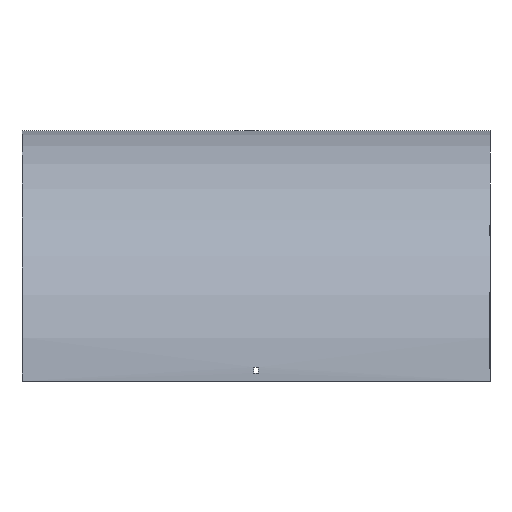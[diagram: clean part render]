
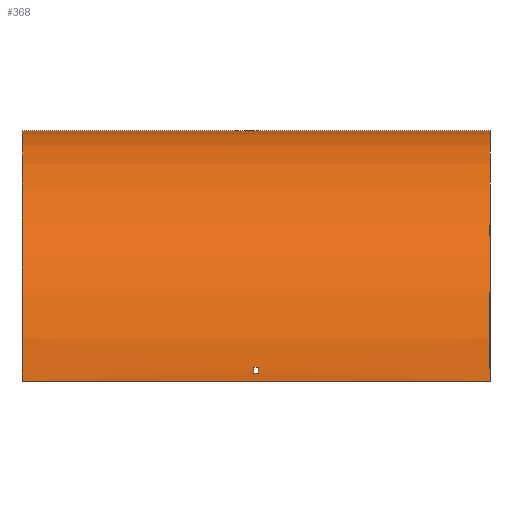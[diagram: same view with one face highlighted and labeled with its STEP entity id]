
A CAD part, top view. The second image highlights one B-rep face of the part: STEP entity #368.
In plain terms, the highlighted cylindrical face has radius 376.5 mm (diameter 753 mm), a partial arc.
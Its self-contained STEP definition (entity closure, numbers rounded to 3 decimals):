
#5 = VERTEX_POINT ( 'NONE', #207 ) ;
#6 = EDGE_CURVE ( 'NONE', #464, #354, #39, .T. ) ;
#7 = CARTESIAN_POINT ( 'NONE',  ( 351.5, -364.5, 376.309 ) ) ;
#10 = CARTESIAN_POINT ( 'NONE',  ( 351.5, 0., 0. ) ) ;
#12 = AXIS2_PLACEMENT_3D ( 'NONE', #395, #593, #356 ) ;
#18 = CARTESIAN_POINT ( 'NONE',  ( 3.25, -0.586, 21. ) ) ;
#24 = ORIENTED_EDGE ( 'NONE', *, *, #81, .F. ) ;
#27 = LINE ( 'NONE', #116, #352 ) ;
#39 = CIRCLE ( 'NONE', #378, 376.5 ) ;
#41 = DIRECTION ( 'NONE',  ( -1., 0., 0. ) ) ;
#42 = VERTEX_POINT ( 'NONE', #473 ) ;
#43 = VECTOR ( 'NONE', #41, 1000. ) ;
#46 = CIRCLE ( 'NONE', #386, 376.5 ) ;
#48 = VERTEX_POINT ( 'NONE', #340 ) ;
#53 = DIRECTION ( 'NONE',  ( -1., 0., 0. ) ) ;
#54 = VERTEX_POINT ( 'NONE', #248 ) ;
#65 = EDGE_CURVE ( 'NONE', #360, #464, #429, .T. ) ;
#70 = EDGE_LOOP ( 'NONE', ( #498, #377, #24, #254 ) ) ;
#72 = DIRECTION ( 'NONE',  ( 0., 0., 1. ) ) ;
#74 = DIRECTION ( 'NONE',  ( 0., 0., -1. ) ) ;
#76 = EDGE_CURVE ( 'NONE', #366, #354, #143, .T. ) ;
#81 = EDGE_CURVE ( 'NONE', #360, #366, #46, .T. ) ;
#83 = EDGE_CURVE ( 'NONE', #587, #232, #27, .T. ) ;
#85 = ORIENTED_EDGE ( 'NONE', *, *, #565, .F. ) ;
#104 = CIRCLE ( 'NONE', #12, 376.5 ) ;
#106 = CARTESIAN_POINT ( 'NONE',  ( -351.5, -376.5, 0. ) ) ;
#110 = EDGE_LOOP ( 'NONE', ( #208, #607, #467, #367 ) ) ;
#112 = DIRECTION ( 'NONE',  ( 0., 0., -1. ) ) ;
#114 = AXIS2_PLACEMENT_3D ( 'NONE', #451, #210, #72 ) ;
#116 = CARTESIAN_POINT ( 'NONE',  ( 351.5, -0.191, 12. ) ) ;
#123 = EDGE_CURVE ( 'NONE', #126, #587, #461, .T. ) ;
#126 = VERTEX_POINT ( 'NONE', #264 ) ;
#140 = CARTESIAN_POINT ( 'NONE',  ( 351.5, 0., 0. ) ) ;
#143 = LINE ( 'NONE', #384, #316 ) ;
#152 = VECTOR ( 'NONE', #419, 1000. ) ;
#155 = DIRECTION ( 'NONE',  ( 1., 0., 0. ) ) ;
#164 = EDGE_CURVE ( 'NONE', #232, #175, #502, .T. ) ;
#165 = DIRECTION ( 'NONE',  ( -1., 0., 0. ) ) ;
#173 = LINE ( 'NONE', #459, #43 ) ;
#175 = VERTEX_POINT ( 'NONE', #18 ) ;
#178 = ORIENTED_EDGE ( 'NONE', *, *, #563, .F. ) ;
#185 = CIRCLE ( 'NONE', #526, 376.5 ) ;
#191 = FACE_BOUND ( 'NONE', #110, .T. ) ;
#196 = DIRECTION ( 'NONE',  ( -1., 0., 0. ) ) ;
#197 = AXIS2_PLACEMENT_3D ( 'NONE', #543, #487, #74 ) ;
#207 = CARTESIAN_POINT ( 'NONE',  ( -3.25, -364.5, 376.309 ) ) ;
#208 = ORIENTED_EDGE ( 'NONE', *, *, #307, .T. ) ;
#210 = DIRECTION ( 'NONE',  ( -1., 0., 0. ) ) ;
#214 = DIRECTION ( 'NONE',  ( 1., 0., 0. ) ) ;
#232 = VERTEX_POINT ( 'NONE', #534 ) ;
#234 = CARTESIAN_POINT ( 'NONE',  ( -351.5, -376.5, 376.5 ) ) ;
#248 = CARTESIAN_POINT ( 'NONE',  ( 3.25, -364.5, 376.309 ) ) ;
#254 = ORIENTED_EDGE ( 'NONE', *, *, #65, .T. ) ;
#263 = CARTESIAN_POINT ( 'NONE',  ( 351.5, -355.5, 375.914 ) ) ;
#264 = CARTESIAN_POINT ( 'NONE',  ( -3.25, -0.586, 21. ) ) ;
#281 = FACE_BOUND ( 'NONE', #511, .T. ) ;
#307 = EDGE_CURVE ( 'NONE', #175, #126, #173, .T. ) ;
#313 = CARTESIAN_POINT ( 'NONE',  ( 351.5, -376.5, 0. ) ) ;
#316 = VECTOR ( 'NONE', #341, 1000. ) ;
#340 = CARTESIAN_POINT ( 'NONE',  ( -3.25, -355.5, 375.914 ) ) ;
#341 = DIRECTION ( 'NONE',  ( -1., 0., 0. ) ) ;
#347 = CARTESIAN_POINT ( 'NONE',  ( -3.25, -376.5, 0. ) ) ;
#352 = VECTOR ( 'NONE', #214, 1000. ) ;
#354 = VERTEX_POINT ( 'NONE', #234 ) ;
#356 = DIRECTION ( 'NONE',  ( 0., 0., 1. ) ) ;
#360 = VERTEX_POINT ( 'NONE', #140 ) ;
#366 = VERTEX_POINT ( 'NONE', #371 ) ;
#367 = ORIENTED_EDGE ( 'NONE', *, *, #164, .T. ) ;
#368 = ADVANCED_FACE ( 'NONE', ( #516, #191, #281 ), #562, .T. ) ;
#371 = CARTESIAN_POINT ( 'NONE',  ( 351.5, -376.5, 376.5 ) ) ;
#377 = ORIENTED_EDGE ( 'NONE', *, *, #76, .F. ) ;
#378 = AXIS2_PLACEMENT_3D ( 'NONE', #106, #571, #521 ) ;
#384 = CARTESIAN_POINT ( 'NONE',  ( 351.5, -376.5, 376.5 ) ) ;
#386 = AXIS2_PLACEMENT_3D ( 'NONE', #313, #538, #112 ) ;
#395 = CARTESIAN_POINT ( 'NONE',  ( 3.25, -376.5, 0. ) ) ;
#412 = EDGE_CURVE ( 'NONE', #5, #54, #561, .T. ) ;
#419 = DIRECTION ( 'NONE',  ( 1., 0., 0. ) ) ;
#422 = CARTESIAN_POINT ( 'NONE',  ( 351.5, -376.5, 0. ) ) ;
#429 = LINE ( 'NONE', #10, #605 ) ;
#437 = CARTESIAN_POINT ( 'NONE',  ( -3.25, -0.191, 12. ) ) ;
#444 = AXIS2_PLACEMENT_3D ( 'NONE', #422, #53, #472 ) ;
#451 = CARTESIAN_POINT ( 'NONE',  ( -3.25, -376.5, 0. ) ) ;
#459 = CARTESIAN_POINT ( 'NONE',  ( 351.5, -0.586, 21. ) ) ;
#461 = CIRCLE ( 'NONE', #114, 376.5 ) ;
#464 = VERTEX_POINT ( 'NONE', #566 ) ;
#467 = ORIENTED_EDGE ( 'NONE', *, *, #83, .T. ) ;
#472 = DIRECTION ( 'NONE',  ( 0., 0., 1. ) ) ;
#473 = CARTESIAN_POINT ( 'NONE',  ( 3.25, -355.5, 375.914 ) ) ;
#485 = ORIENTED_EDGE ( 'NONE', *, *, #412, .F. ) ;
#487 = DIRECTION ( 'NONE',  ( 1., 0., 0. ) ) ;
#488 = DIRECTION ( 'NONE',  ( 0., 1., 0. ) ) ;
#494 = ORIENTED_EDGE ( 'NONE', *, *, #603, .F. ) ;
#498 = ORIENTED_EDGE ( 'NONE', *, *, #6, .T. ) ;
#502 = CIRCLE ( 'NONE', #197, 376.5 ) ;
#503 = VECTOR ( 'NONE', #165, 1000. ) ;
#511 = EDGE_LOOP ( 'NONE', ( #494, #178, #85, #485 ) ) ;
#516 = FACE_OUTER_BOUND ( 'NONE', #70, .T. ) ;
#521 = DIRECTION ( 'NONE',  ( 0., 0., -1. ) ) ;
#526 = AXIS2_PLACEMENT_3D ( 'NONE', #347, #155, #488 ) ;
#534 = CARTESIAN_POINT ( 'NONE',  ( 3.25, -0.191, 12. ) ) ;
#538 = DIRECTION ( 'NONE',  ( 1., 0., 0. ) ) ;
#543 = CARTESIAN_POINT ( 'NONE',  ( 3.25, -376.5, 0. ) ) ;
#561 = LINE ( 'NONE', #7, #152 ) ;
#562 = CYLINDRICAL_SURFACE ( 'NONE', #444, 376.5 ) ;
#563 = EDGE_CURVE ( 'NONE', #42, #48, #574, .T. ) ;
#565 = EDGE_CURVE ( 'NONE', #54, #42, #104, .T. ) ;
#566 = CARTESIAN_POINT ( 'NONE',  ( -351.5, 0., 0. ) ) ;
#571 = DIRECTION ( 'NONE',  ( 1., 0., 0. ) ) ;
#574 = LINE ( 'NONE', #263, #503 ) ;
#587 = VERTEX_POINT ( 'NONE', #437 ) ;
#593 = DIRECTION ( 'NONE',  ( -1., 0., 0. ) ) ;
#603 = EDGE_CURVE ( 'NONE', #48, #5, #185, .T. ) ;
#605 = VECTOR ( 'NONE', #196, 1000. ) ;
#607 = ORIENTED_EDGE ( 'NONE', *, *, #123, .T. ) ;
